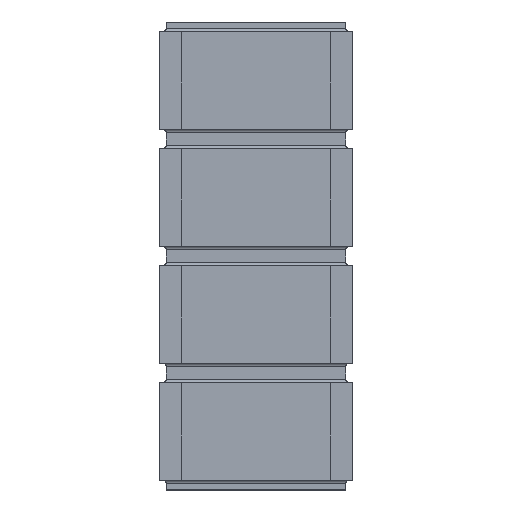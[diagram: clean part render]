
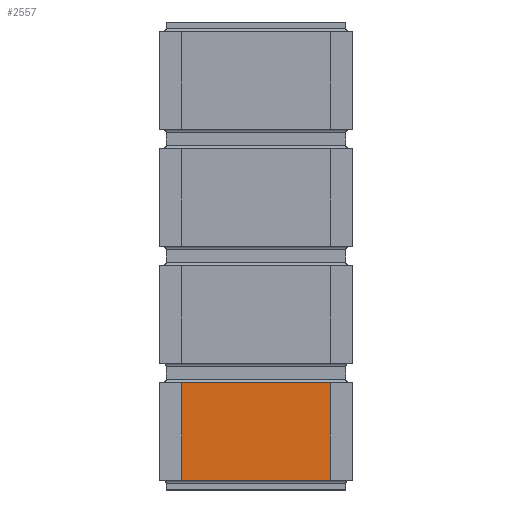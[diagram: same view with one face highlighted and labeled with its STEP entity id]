
A CAD part, top view. The second image highlights one B-rep face of the part: STEP entity #2557.
In plain terms, the highlighted planar face has unit normal (0, 0, 1).
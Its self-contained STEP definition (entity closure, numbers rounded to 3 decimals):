
#119=FACE_OUTER_BOUND('',#279,.T.);
#279=EDGE_LOOP('',(#1759,#1760,#1761,#1762));
#438=LINE('',#3666,#770);
#450=LINE('',#3695,#782);
#459=LINE('',#3716,#791);
#461=LINE('',#3719,#793);
#770=VECTOR('',#2950,10.);
#782=VECTOR('',#2978,10.);
#791=VECTOR('',#2999,10.);
#793=VECTOR('',#3003,10.);
#1102=VERTEX_POINT('',#3664);
#1103=VERTEX_POINT('',#3665);
#1111=VERTEX_POINT('',#3692);
#1118=VERTEX_POINT('',#3714);
#1338=EDGE_CURVE('',#1102,#1103,#438,.T.);
#1352=EDGE_CURVE('',#1111,#1102,#450,.T.);
#1363=EDGE_CURVE('',#1118,#1111,#459,.T.);
#1365=EDGE_CURVE('',#1118,#1103,#461,.T.);
#1759=ORIENTED_EDGE('',*,*,#1363,.F.);
#1760=ORIENTED_EDGE('',*,*,#1365,.T.);
#1761=ORIENTED_EDGE('',*,*,#1338,.F.);
#1762=ORIENTED_EDGE('',*,*,#1352,.F.);
#2424=PLANE('',#2751);
#2557=ADVANCED_FACE('',(#119),#2424,.T.);
#2751=AXIS2_PLACEMENT_3D('',#3718,#3001,#3002);
#2950=DIRECTION('',(-1.,0.,0.));
#2978=DIRECTION('',(0.,-1.,0.));
#2999=DIRECTION('',(1.,0.,0.));
#3001=DIRECTION('center_axis',(0.,0.,1.));
#3002=DIRECTION('ref_axis',(1.,0.,0.));
#3003=DIRECTION('',(0.,-1.,0.));
#3664=CARTESIAN_POINT('',(2.995,0.15,0.375));
#3665=CARTESIAN_POINT('',(0.005,0.15,0.375));
#3666=CARTESIAN_POINT('',(2.995,0.15,0.375));
#3692=CARTESIAN_POINT('',(2.995,1.675,0.375));
#3695=CARTESIAN_POINT('',(2.995,1.675,0.375));
#3714=CARTESIAN_POINT('',(0.005,1.675,0.375));
#3716=CARTESIAN_POINT('',(0.005,1.675,0.375));
#3718=CARTESIAN_POINT('Origin',(1.5,1.675,0.375));
#3719=CARTESIAN_POINT('',(0.005,1.675,0.375));
